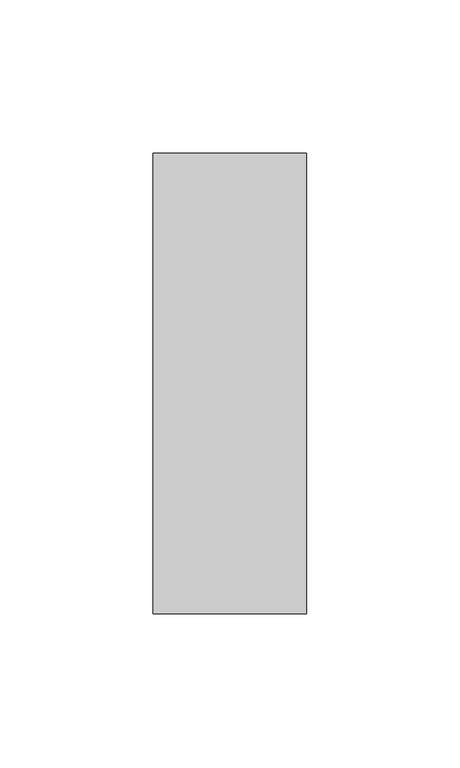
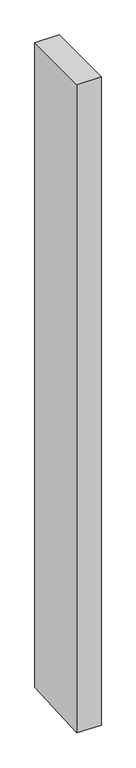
"""IFC4 building model written with IfcOpenShell, lengths in millimetres: member geometry, Прямоугольный импост : 50 x 150 мм."""

from ifc_helpers import new_model, si_unit, origin, place, context, project, spatial, faceted_brep, source, transform, mapped, element, save


def member_eaf9c522(model_context):
    return source(origin(), model_context, "Body", "Brep", [
        faceted_brep([(25.0, 75.0, 0.0), (-25.0, 75.0, 0.0), (-25.0, -75.0, 0.0), (25.0, -75.0, 0.0), (25.0, 75.0, -1407.9330565), (-25.0, 75.0, -1407.2038482), (-25.0, -75.0, -1415.6077441), (25.0, -75.0, -1416.3369524)], [[[0, 1, 2, 3]], [[1, 0, 4, 5]], [[2, 1, 5, 6]], [[3, 2, 6, 7]], [[0, 3, 7, 4]], [[4, 7, 6, 5]]]),
    ])


if __name__ == "__main__":
    model = new_model("IFC4")
    model_context = context("Model", 3, world=origin())
    ifc_project = project(units=[si_unit("LENGTHUNIT", "METRE", prefix="MILLI")], contexts=[model_context])
    site = spatial("IfcSite", under=ifc_project)
    building = spatial("IfcBuilding", under=site)
    placement = place(None, origin())
    member_shape = member_eaf9c522(model_context)
    element("IfcMember", 1, ObjectType="Прямоугольный импост : 50 x 150 мм", at=placement, inside=building, context=model_context, shape_type="MappedRepresentation", body=[
        mapped(member_shape, transform((0.0, 0.0, 0.0), x_axis=(1.0, 0.0, 0.0), y_axis=(0.0, 1.0, 0.0), z_axis=(0.0, 0.0, 1.0))),
    ])
    save(model, "model.ifc")
